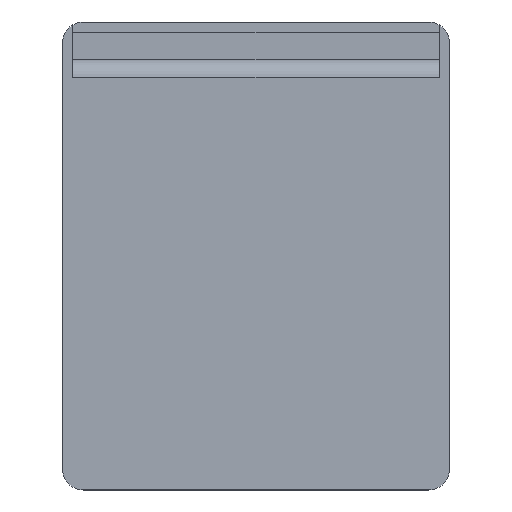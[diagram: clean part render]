
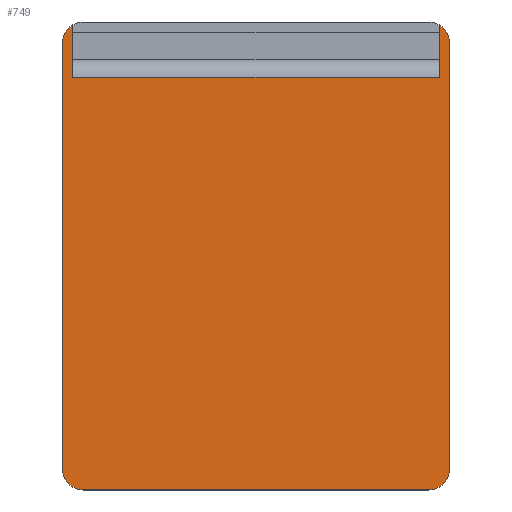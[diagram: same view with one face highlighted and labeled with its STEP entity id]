
A CAD part, front view. The second image highlights one B-rep face of the part: STEP entity #749.
In plain terms, the highlighted planar face has unit normal (0, -1, 0).
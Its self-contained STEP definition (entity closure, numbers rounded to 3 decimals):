
#6 = AXIS2_PLACEMENT_3D ( 'NONE', #546, #722, #90 ) ;
#9 = EDGE_CURVE ( 'NONE', #189, #717, #541, .T. ) ;
#35 = EDGE_CURVE ( 'NONE', #163, #737, #397, .T. ) ;
#42 = CARTESIAN_POINT ( 'NONE',  ( 37., -246., 40.75 ) ) ;
#45 = AXIS2_PLACEMENT_3D ( 'NONE', #640, #329, #277 ) ;
#46 = DIRECTION ( 'NONE',  ( 0., 0., 1. ) ) ;
#65 = ORIENTED_EDGE ( 'NONE', *, *, #505, .F. ) ;
#72 = DIRECTION ( 'NONE',  ( 0., 1., 0. ) ) ;
#79 = CARTESIAN_POINT ( 'NONE',  ( -33., -246., 40.75 ) ) ;
#90 = DIRECTION ( 'NONE',  ( 0., 0., -1. ) ) ;
#92 = CARTESIAN_POINT ( 'NONE',  ( -37., -246., 40.75 ) ) ;
#93 = CIRCLE ( 'NONE', #730, 4. ) ;
#102 = DIRECTION ( 'NONE',  ( 1., 0., 0. ) ) ;
#118 = DIRECTION ( 'NONE',  ( 0., 0., -1. ) ) ;
#124 = EDGE_CURVE ( 'NONE', #737, #528, #288, .T. ) ;
#154 = ORIENTED_EDGE ( 'NONE', *, *, #164, .F. ) ;
#160 = CARTESIAN_POINT ( 'NONE',  ( 33., -246., -44.75 ) ) ;
#162 = EDGE_LOOP ( 'NONE', ( #798, #200, #372, #654, #373, #199, #154, #708, #780, #65 ) ) ;
#163 = VERTEX_POINT ( 'NONE', #188 ) ;
#164 = EDGE_CURVE ( 'NONE', #528, #189, #352, .T. ) ;
#188 = CARTESIAN_POINT ( 'NONE',  ( 35., -246., 44.214 ) ) ;
#189 = VERTEX_POINT ( 'NONE', #503 ) ;
#199 = ORIENTED_EDGE ( 'NONE', *, *, #9, .F. ) ;
#200 = ORIENTED_EDGE ( 'NONE', *, *, #337, .T. ) ;
#212 = DIRECTION ( 'NONE',  ( 0., 0., 1. ) ) ;
#261 = FACE_OUTER_BOUND ( 'NONE', #162, .T. ) ;
#277 = DIRECTION ( 'NONE',  ( 0., 0., -1. ) ) ;
#281 = CARTESIAN_POINT ( 'NONE',  ( 35., -246., 40.75 ) ) ;
#288 = LINE ( 'NONE', #42, #598 ) ;
#301 = VECTOR ( 'NONE', #102, 1000. ) ;
#326 = CARTESIAN_POINT ( 'NONE',  ( -33., -246., -44.75 ) ) ;
#329 = DIRECTION ( 'NONE',  ( 0., -1., 0. ) ) ;
#337 = EDGE_CURVE ( 'NONE', #682, #790, #492, .T. ) ;
#339 = CARTESIAN_POINT ( 'NONE',  ( 37., -246., -40.75 ) ) ;
#352 = CIRCLE ( 'NONE', #387, 4. ) ;
#371 = DIRECTION ( 'NONE',  ( 0., 0., 1. ) ) ;
#372 = ORIENTED_EDGE ( 'NONE', *, *, #739, .F. ) ;
#373 = ORIENTED_EDGE ( 'NONE', *, *, #770, .F. ) ;
#387 = AXIS2_PLACEMENT_3D ( 'NONE', #443, #807, #371 ) ;
#390 = VECTOR ( 'NONE', #46, 1000. ) ;
#397 = CIRCLE ( 'NONE', #6, 4. ) ;
#400 = DIRECTION ( 'NONE',  ( 0., 1., 0. ) ) ;
#406 = CARTESIAN_POINT ( 'NONE',  ( 37., -246., 40.75 ) ) ;
#421 = EDGE_CURVE ( 'NONE', #536, #519, #642, .T. ) ;
#443 = CARTESIAN_POINT ( 'NONE',  ( 33., -246., -40.75 ) ) ;
#446 = LINE ( 'NONE', #540, #301 ) ;
#462 = CARTESIAN_POINT ( 'NONE',  ( 35., -246., 34.174 ) ) ;
#476 = VECTOR ( 'NONE', #663, 1000. ) ;
#492 = LINE ( 'NONE', #788, #390 ) ;
#494 = DIRECTION ( 'NONE',  ( 0., 0., -1. ) ) ;
#503 = CARTESIAN_POINT ( 'NONE',  ( 33., -246., -44.75 ) ) ;
#505 = EDGE_CURVE ( 'NONE', #690, #163, #620, .T. ) ;
#515 = DIRECTION ( 'NONE',  ( 0., 0., 1. ) ) ;
#519 = VERTEX_POINT ( 'NONE', #92 ) ;
#528 = VERTEX_POINT ( 'NONE', #339 ) ;
#536 = VERTEX_POINT ( 'NONE', #643 ) ;
#540 = CARTESIAN_POINT ( 'NONE',  ( -35., -246., 34.174 ) ) ;
#541 = LINE ( 'NONE', #160, #794 ) ;
#546 = CARTESIAN_POINT ( 'NONE',  ( 33., -246., 40.75 ) ) ;
#598 = VECTOR ( 'NONE', #118, 1000. ) ;
#600 = DIRECTION ( 'NONE',  ( -1., 0., 0. ) ) ;
#620 = LINE ( 'NONE', #281, #744 ) ;
#627 = CARTESIAN_POINT ( 'NONE',  ( -35., -246., 34.174 ) ) ;
#640 = CARTESIAN_POINT ( 'NONE',  ( 33., -246., 40.75 ) ) ;
#642 = LINE ( 'NONE', #701, #476 ) ;
#643 = CARTESIAN_POINT ( 'NONE',  ( -37., -246., -40.75 ) ) ;
#654 = ORIENTED_EDGE ( 'NONE', *, *, #421, .F. ) ;
#663 = DIRECTION ( 'NONE',  ( 0., 0., 1. ) ) ;
#682 = VERTEX_POINT ( 'NONE', #627 ) ;
#690 = VERTEX_POINT ( 'NONE', #462 ) ;
#693 = AXIS2_PLACEMENT_3D ( 'NONE', #79, #72, #515 ) ;
#701 = CARTESIAN_POINT ( 'NONE',  ( -37., -246., 40.75 ) ) ;
#707 = PLANE ( 'NONE',  #45 ) ;
#708 = ORIENTED_EDGE ( 'NONE', *, *, #124, .F. ) ;
#717 = VERTEX_POINT ( 'NONE', #326 ) ;
#722 = DIRECTION ( 'NONE',  ( 0., 1., 0. ) ) ;
#730 = AXIS2_PLACEMENT_3D ( 'NONE', #765, #400, #494 ) ;
#733 = EDGE_CURVE ( 'NONE', #682, #690, #446, .T. ) ;
#737 = VERTEX_POINT ( 'NONE', #406 ) ;
#739 = EDGE_CURVE ( 'NONE', #519, #790, #754, .T. ) ;
#744 = VECTOR ( 'NONE', #212, 1000. ) ;
#749 = ADVANCED_FACE ( 'NONE', ( #261 ), #707, .T. ) ;
#754 = CIRCLE ( 'NONE', #693, 4. ) ;
#765 = CARTESIAN_POINT ( 'NONE',  ( -33., -246., -40.75 ) ) ;
#770 = EDGE_CURVE ( 'NONE', #717, #536, #93, .T. ) ;
#780 = ORIENTED_EDGE ( 'NONE', *, *, #35, .F. ) ;
#788 = CARTESIAN_POINT ( 'NONE',  ( -35., -246., 40.75 ) ) ;
#790 = VERTEX_POINT ( 'NONE', #806 ) ;
#794 = VECTOR ( 'NONE', #600, 1000. ) ;
#798 = ORIENTED_EDGE ( 'NONE', *, *, #733, .F. ) ;
#806 = CARTESIAN_POINT ( 'NONE',  ( -35., -246., 44.214 ) ) ;
#807 = DIRECTION ( 'NONE',  ( 0., 1., 0. ) ) ;
